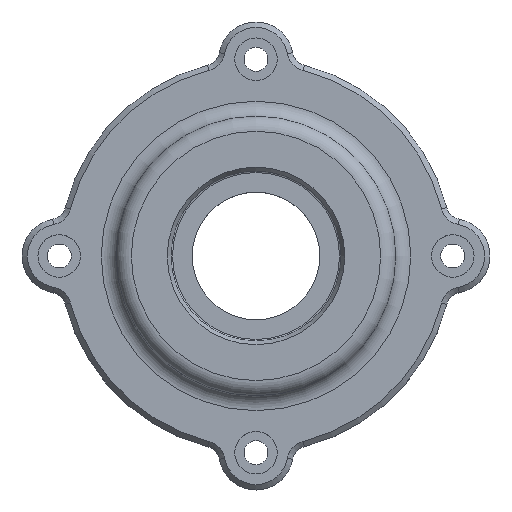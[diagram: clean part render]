
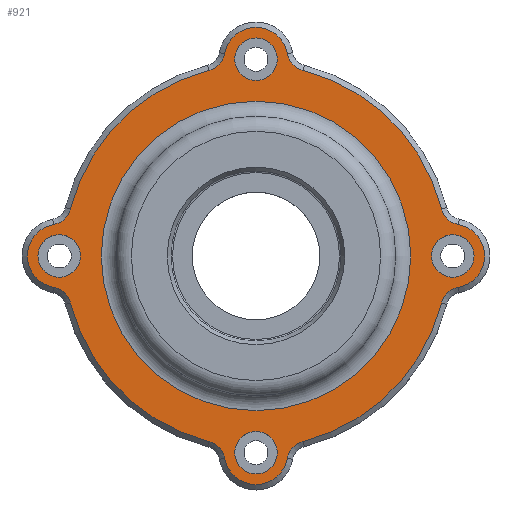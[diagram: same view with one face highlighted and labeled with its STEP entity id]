
A CAD part, top view. The second image highlights one B-rep face of the part: STEP entity #921.
In plain terms, the highlighted planar face has unit normal (0, 0, 1).
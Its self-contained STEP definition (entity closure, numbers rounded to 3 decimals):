
#26=FACE_BOUND('',#186,.T.);
#27=FACE_BOUND('',#187,.T.);
#28=FACE_BOUND('',#188,.T.);
#29=FACE_BOUND('',#189,.T.);
#30=FACE_BOUND('',#190,.T.);
#44=PLANE('',#1072);
#118=FACE_OUTER_BOUND('',#185,.T.);
#185=EDGE_LOOP('',(#762,#763,#764,#765,#766,#767,#768,#769,#770,#771,#772,
#773,#774,#775,#776,#777));
#186=EDGE_LOOP('',(#778));
#187=EDGE_LOOP('',(#779));
#188=EDGE_LOOP('',(#780));
#189=EDGE_LOOP('',(#781));
#190=EDGE_LOOP('',(#782));
#314=CIRCLE('',#977,4.);
#318=CIRCLE('',#984,4.);
#322=CIRCLE('',#991,4.);
#326=CIRCLE('',#998,4.);
#332=CIRCLE('',#1009,36.);
#335=CIRCLE('',#1013,4.);
#337=CIRCLE('',#1016,6.);
#339=CIRCLE('',#1019,4.);
#341=CIRCLE('',#1022,36.);
#343=CIRCLE('',#1025,4.);
#345=CIRCLE('',#1028,6.);
#347=CIRCLE('',#1031,4.);
#349=CIRCLE('',#1034,36.);
#351=CIRCLE('',#1037,4.);
#353=CIRCLE('',#1040,6.);
#355=CIRCLE('',#1043,4.);
#357=CIRCLE('',#1046,36.);
#359=CIRCLE('',#1049,4.);
#361=CIRCLE('',#1052,6.);
#363=CIRCLE('',#1055,4.);
#372=CIRCLE('',#1073,29.101);
#397=VERTEX_POINT('',#1469);
#401=VERTEX_POINT('',#1482);
#405=VERTEX_POINT('',#1495);
#409=VERTEX_POINT('',#1508);
#416=VERTEX_POINT('',#1530);
#417=VERTEX_POINT('',#1532);
#419=VERTEX_POINT('',#1538);
#421=VERTEX_POINT('',#1544);
#423=VERTEX_POINT('',#1550);
#425=VERTEX_POINT('',#1556);
#427=VERTEX_POINT('',#1562);
#429=VERTEX_POINT('',#1568);
#431=VERTEX_POINT('',#1574);
#433=VERTEX_POINT('',#1580);
#435=VERTEX_POINT('',#1586);
#437=VERTEX_POINT('',#1592);
#439=VERTEX_POINT('',#1598);
#441=VERTEX_POINT('',#1604);
#443=VERTEX_POINT('',#1610);
#445=VERTEX_POINT('',#1616);
#456=VERTEX_POINT('',#1659);
#480=EDGE_CURVE('',#397,#397,#314,.T.);
#486=EDGE_CURVE('',#401,#401,#318,.T.);
#492=EDGE_CURVE('',#405,#405,#322,.T.);
#498=EDGE_CURVE('',#409,#409,#326,.T.);
#509=EDGE_CURVE('',#416,#417,#332,.T.);
#514=EDGE_CURVE('',#417,#419,#335,.T.);
#517=EDGE_CURVE('',#419,#421,#337,.T.);
#520=EDGE_CURVE('',#421,#423,#339,.T.);
#523=EDGE_CURVE('',#423,#425,#341,.T.);
#526=EDGE_CURVE('',#425,#427,#343,.T.);
#529=EDGE_CURVE('',#427,#429,#345,.T.);
#532=EDGE_CURVE('',#429,#431,#347,.T.);
#535=EDGE_CURVE('',#431,#433,#349,.T.);
#538=EDGE_CURVE('',#433,#435,#351,.T.);
#541=EDGE_CURVE('',#435,#437,#353,.T.);
#544=EDGE_CURVE('',#437,#439,#355,.T.);
#547=EDGE_CURVE('',#439,#441,#357,.T.);
#550=EDGE_CURVE('',#441,#443,#359,.T.);
#553=EDGE_CURVE('',#443,#445,#361,.T.);
#555=EDGE_CURVE('',#445,#416,#363,.T.);
#573=EDGE_CURVE('',#456,#456,#372,.T.);
#762=ORIENTED_EDGE('',*,*,#509,.F.);
#763=ORIENTED_EDGE('',*,*,#555,.F.);
#764=ORIENTED_EDGE('',*,*,#553,.F.);
#765=ORIENTED_EDGE('',*,*,#550,.F.);
#766=ORIENTED_EDGE('',*,*,#547,.F.);
#767=ORIENTED_EDGE('',*,*,#544,.F.);
#768=ORIENTED_EDGE('',*,*,#541,.F.);
#769=ORIENTED_EDGE('',*,*,#538,.F.);
#770=ORIENTED_EDGE('',*,*,#535,.F.);
#771=ORIENTED_EDGE('',*,*,#532,.F.);
#772=ORIENTED_EDGE('',*,*,#529,.F.);
#773=ORIENTED_EDGE('',*,*,#526,.F.);
#774=ORIENTED_EDGE('',*,*,#523,.F.);
#775=ORIENTED_EDGE('',*,*,#520,.F.);
#776=ORIENTED_EDGE('',*,*,#517,.F.);
#777=ORIENTED_EDGE('',*,*,#514,.F.);
#778=ORIENTED_EDGE('',*,*,#480,.T.);
#779=ORIENTED_EDGE('',*,*,#486,.T.);
#780=ORIENTED_EDGE('',*,*,#492,.T.);
#781=ORIENTED_EDGE('',*,*,#498,.T.);
#782=ORIENTED_EDGE('',*,*,#573,.F.);
#921=ADVANCED_FACE('',(#118,#26,#27,#28,#29,#30),#44,.T.);
#977=AXIS2_PLACEMENT_3D('',#1470,#1142,#1143);
#984=AXIS2_PLACEMENT_3D('',#1483,#1158,#1159);
#991=AXIS2_PLACEMENT_3D('',#1496,#1174,#1175);
#998=AXIS2_PLACEMENT_3D('',#1509,#1190,#1191);
#1009=AXIS2_PLACEMENT_3D('',#1533,#1217,#1218);
#1013=AXIS2_PLACEMENT_3D('',#1542,#1227,#1228);
#1016=AXIS2_PLACEMENT_3D('',#1548,#1234,#1235);
#1019=AXIS2_PLACEMENT_3D('',#1554,#1241,#1242);
#1022=AXIS2_PLACEMENT_3D('',#1560,#1248,#1249);
#1025=AXIS2_PLACEMENT_3D('',#1566,#1255,#1256);
#1028=AXIS2_PLACEMENT_3D('',#1572,#1262,#1263);
#1031=AXIS2_PLACEMENT_3D('',#1578,#1269,#1270);
#1034=AXIS2_PLACEMENT_3D('',#1584,#1276,#1277);
#1037=AXIS2_PLACEMENT_3D('',#1590,#1283,#1284);
#1040=AXIS2_PLACEMENT_3D('',#1596,#1290,#1291);
#1043=AXIS2_PLACEMENT_3D('',#1602,#1297,#1298);
#1046=AXIS2_PLACEMENT_3D('',#1608,#1304,#1305);
#1049=AXIS2_PLACEMENT_3D('',#1614,#1311,#1312);
#1052=AXIS2_PLACEMENT_3D('',#1620,#1318,#1319);
#1055=AXIS2_PLACEMENT_3D('',#1623,#1324,#1325);
#1072=AXIS2_PLACEMENT_3D('',#1658,#1367,#1368);
#1073=AXIS2_PLACEMENT_3D('',#1660,#1369,#1370);
#1142=DIRECTION('center_axis',(0.,0.,-1.));
#1143=DIRECTION('ref_axis',(0.,-1.,0.));
#1158=DIRECTION('center_axis',(0.,0.,-1.));
#1159=DIRECTION('ref_axis',(-1.,0.,0.));
#1174=DIRECTION('center_axis',(0.,0.,-1.));
#1175=DIRECTION('ref_axis',(0.,1.,0.));
#1190=DIRECTION('center_axis',(0.,0.,-1.));
#1191=DIRECTION('ref_axis',(1.,0.,0.));
#1217=DIRECTION('center_axis',(0.,0.,-1.));
#1218=DIRECTION('ref_axis',(0.969,0.246,0.));
#1227=DIRECTION('center_axis',(0.,0.,1.));
#1228=DIRECTION('ref_axis',(-0.969,-0.246,0.));
#1234=DIRECTION('center_axis',(0.,0.,-1.));
#1235=DIRECTION('ref_axis',(0.177,-0.984,0.));
#1241=DIRECTION('center_axis',(0.,0.,1.));
#1242=DIRECTION('ref_axis',(-0.177,0.984,0.));
#1248=DIRECTION('center_axis',(0.,0.,-1.));
#1249=DIRECTION('ref_axis',(0.246,-0.969,0.));
#1255=DIRECTION('center_axis',(0.,0.,1.));
#1256=DIRECTION('ref_axis',(-0.246,0.969,0.));
#1262=DIRECTION('center_axis',(0.,0.,-1.));
#1263=DIRECTION('ref_axis',(-0.984,-0.177,0.));
#1269=DIRECTION('center_axis',(0.,0.,1.));
#1270=DIRECTION('ref_axis',(0.984,0.177,0.));
#1276=DIRECTION('center_axis',(0.,0.,-1.));
#1277=DIRECTION('ref_axis',(-0.969,-0.246,0.));
#1283=DIRECTION('center_axis',(0.,0.,1.));
#1284=DIRECTION('ref_axis',(0.969,0.246,0.));
#1290=DIRECTION('center_axis',(0.,0.,-1.));
#1291=DIRECTION('ref_axis',(-0.177,0.984,0.));
#1297=DIRECTION('center_axis',(0.,0.,1.));
#1298=DIRECTION('ref_axis',(0.177,-0.984,0.));
#1304=DIRECTION('center_axis',(0.,0.,-1.));
#1305=DIRECTION('ref_axis',(-0.246,0.969,0.));
#1311=DIRECTION('center_axis',(0.,0.,1.));
#1312=DIRECTION('ref_axis',(0.246,-0.969,0.));
#1318=DIRECTION('center_axis',(0.,0.,-1.));
#1319=DIRECTION('ref_axis',(0.984,0.177,0.));
#1324=DIRECTION('center_axis',(0.,0.,1.));
#1325=DIRECTION('ref_axis',(-0.984,-0.177,0.));
#1367=DIRECTION('center_axis',(0.,0.,1.));
#1368=DIRECTION('ref_axis',(1.,0.,0.));
#1369=DIRECTION('center_axis',(0.,0.,1.));
#1370=DIRECTION('ref_axis',(-1.,0.,0.));
#1469=CARTESIAN_POINT('',(0.,-63.25,8.));
#1470=CARTESIAN_POINT('Origin',(0.,-67.25,8.));
#1482=CARTESIAN_POINT('',(-33.,-30.25,8.));
#1483=CARTESIAN_POINT('Origin',(-37.,-30.25,8.));
#1495=CARTESIAN_POINT('',(0.,2.75,8.));
#1496=CARTESIAN_POINT('Origin',(0.,6.75,8.));
#1508=CARTESIAN_POINT('',(33.,-30.25,8.));
#1509=CARTESIAN_POINT('Origin',(37.,-30.25,8.));
#1530=CARTESIAN_POINT('',(8.858,4.643,8.));
#1532=CARTESIAN_POINT('',(34.893,-21.392,8.));
#1533=CARTESIAN_POINT('Origin',(0.,-30.25,8.));
#1538=CARTESIAN_POINT('',(38.062,-24.345,8.));
#1542=CARTESIAN_POINT('Origin',(38.77,-20.408,8.));
#1544=CARTESIAN_POINT('',(38.062,-36.155,8.));
#1548=CARTESIAN_POINT('Origin',(37.,-30.25,8.));
#1550=CARTESIAN_POINT('',(34.893,-39.108,8.));
#1554=CARTESIAN_POINT('Origin',(38.77,-40.092,8.));
#1556=CARTESIAN_POINT('',(8.858,-65.143,8.));
#1560=CARTESIAN_POINT('Origin',(0.,-30.25,8.));
#1562=CARTESIAN_POINT('',(5.905,-68.312,8.));
#1566=CARTESIAN_POINT('Origin',(9.842,-69.02,8.));
#1568=CARTESIAN_POINT('',(-5.905,-68.312,8.));
#1572=CARTESIAN_POINT('Origin',(0.,-67.25,8.));
#1574=CARTESIAN_POINT('',(-8.858,-65.143,8.));
#1578=CARTESIAN_POINT('Origin',(-9.842,-69.02,8.));
#1580=CARTESIAN_POINT('',(-34.893,-39.108,8.));
#1584=CARTESIAN_POINT('Origin',(0.,-30.25,8.));
#1586=CARTESIAN_POINT('',(-38.062,-36.155,8.));
#1590=CARTESIAN_POINT('Origin',(-38.77,-40.092,8.));
#1592=CARTESIAN_POINT('',(-38.062,-24.345,8.));
#1596=CARTESIAN_POINT('Origin',(-37.,-30.25,8.));
#1598=CARTESIAN_POINT('',(-34.893,-21.392,8.));
#1602=CARTESIAN_POINT('Origin',(-38.77,-20.408,8.));
#1604=CARTESIAN_POINT('',(-8.858,4.643,8.));
#1608=CARTESIAN_POINT('Origin',(0.,-30.25,8.));
#1610=CARTESIAN_POINT('',(-5.905,7.812,8.));
#1614=CARTESIAN_POINT('Origin',(-9.842,8.52,8.));
#1616=CARTESIAN_POINT('',(5.905,7.812,8.));
#1620=CARTESIAN_POINT('Origin',(0.,6.75,8.));
#1623=CARTESIAN_POINT('Origin',(9.842,8.52,8.));
#1658=CARTESIAN_POINT('Origin',(0.,-30.25,8.));
#1659=CARTESIAN_POINT('',(29.101,-30.25,8.));
#1660=CARTESIAN_POINT('Origin',(0.,-30.25,8.));
